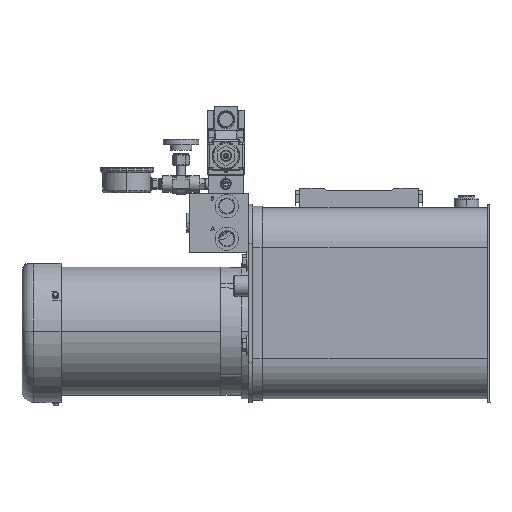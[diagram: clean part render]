
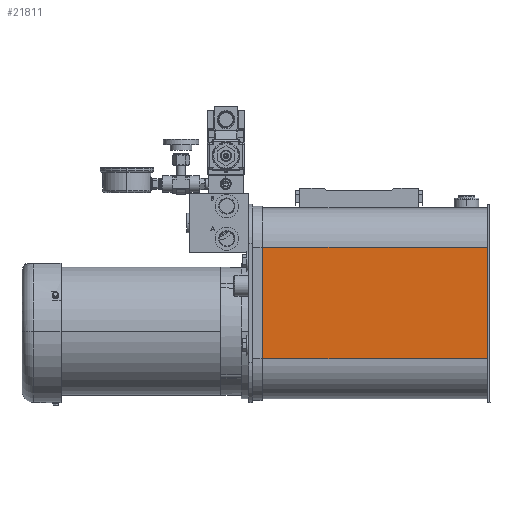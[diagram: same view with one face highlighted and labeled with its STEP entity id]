
A CAD part, top view. The second image highlights one B-rep face of the part: STEP entity #21811.
In plain terms, the highlighted planar face has unit normal (0, 0, 1).
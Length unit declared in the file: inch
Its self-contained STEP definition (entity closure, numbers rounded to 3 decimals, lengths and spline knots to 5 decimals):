
#2206 = VERTEX_POINT ( 'NONE', #76292 ) ;
#4371 = FACE_OUTER_BOUND ( 'NONE', #92279, .T. ) ;
#4914 = VECTOR ( 'NONE', #84340, 39.37008 ) ;
#6568 = VERTEX_POINT ( 'NONE', #31886 ) ;
#13873 = AXIS2_PLACEMENT_3D ( 'NONE', #25256, #38324, #51427 ) ;
#17895 = VECTOR ( 'NONE', #106209, 39.37008 ) ;
#17976 = DIRECTION ( 'NONE',  ( 1., 0., 0. ) ) ;
#21811 = ADVANCED_FACE ( 'NONE', ( #4371 ), #24497, .T. ) ;
#24497 = PLANE ( 'NONE',  #13873 ) ;
#25256 = CARTESIAN_POINT ( 'NONE',  ( -0.60816, 5.24604, 18.42602 ) ) ;
#31886 = CARTESIAN_POINT ( 'NONE',  ( -0.48316, 10.87104, 18.42602 ) ) ;
#38324 = DIRECTION ( 'NONE',  ( 0., 0., 1. ) ) ;
#42179 = ORIENTED_EDGE ( 'NONE', *, *, #71870, .T. ) ;
#43500 = EDGE_CURVE ( 'NONE', #2206, #6568, #107475, .T. ) ;
#47462 = CARTESIAN_POINT ( 'NONE',  ( -0.48316, 5.24604, 18.42602 ) ) ;
#50376 = VERTEX_POINT ( 'NONE', #85817 ) ;
#51427 = DIRECTION ( 'NONE',  ( 0., 1., 0. ) ) ;
#58523 = CARTESIAN_POINT ( 'NONE',  ( 11.27224, 13.05854, 18.42602 ) ) ;
#60070 = DIRECTION ( 'NONE',  ( 1., 0., 0. ) ) ;
#65642 = EDGE_CURVE ( 'NONE', #2206, #50376, #91004, .T. ) ;
#70600 = VERTEX_POINT ( 'NONE', #146511 ) ;
#71510 = LINE ( 'NONE', #58523, #17895 ) ;
#71870 = EDGE_CURVE ( 'NONE', #50376, #70600, #71510, .T. ) ;
#72334 = CARTESIAN_POINT ( 'NONE',  ( -0.60816, 10.87104, 18.42602 ) ) ;
#76292 = CARTESIAN_POINT ( 'NONE',  ( -0.48316, 5.24604, 18.42602 ) ) ;
#84340 = DIRECTION ( 'NONE',  ( 0., 1., 0. ) ) ;
#85817 = CARTESIAN_POINT ( 'NONE',  ( 11.27224, 5.24604, 18.42602 ) ) ;
#90784 = VECTOR ( 'NONE', #60070, 39.37008 ) ;
#91004 = LINE ( 'NONE', #125708, #107731 ) ;
#92279 = EDGE_LOOP ( 'NONE', ( #124070, #128169, #142549, #42179 ) ) ;
#106209 = DIRECTION ( 'NONE',  ( 0., 1., 0. ) ) ;
#107475 = LINE ( 'NONE', #47462, #4914 ) ;
#107731 = VECTOR ( 'NONE', #17976, 39.37008 ) ;
#124070 = ORIENTED_EDGE ( 'NONE', *, *, #129717, .F. ) ;
#125708 = CARTESIAN_POINT ( 'NONE',  ( -0.60816, 5.24604, 18.42602 ) ) ;
#128169 = ORIENTED_EDGE ( 'NONE', *, *, #43500, .F. ) ;
#129717 = EDGE_CURVE ( 'NONE', #6568, #70600, #140166, .T. ) ;
#140166 = LINE ( 'NONE', #72334, #90784 ) ;
#142549 = ORIENTED_EDGE ( 'NONE', *, *, #65642, .T. ) ;
#146511 = CARTESIAN_POINT ( 'NONE',  ( 11.27224, 10.87104, 18.42602 ) ) ;
